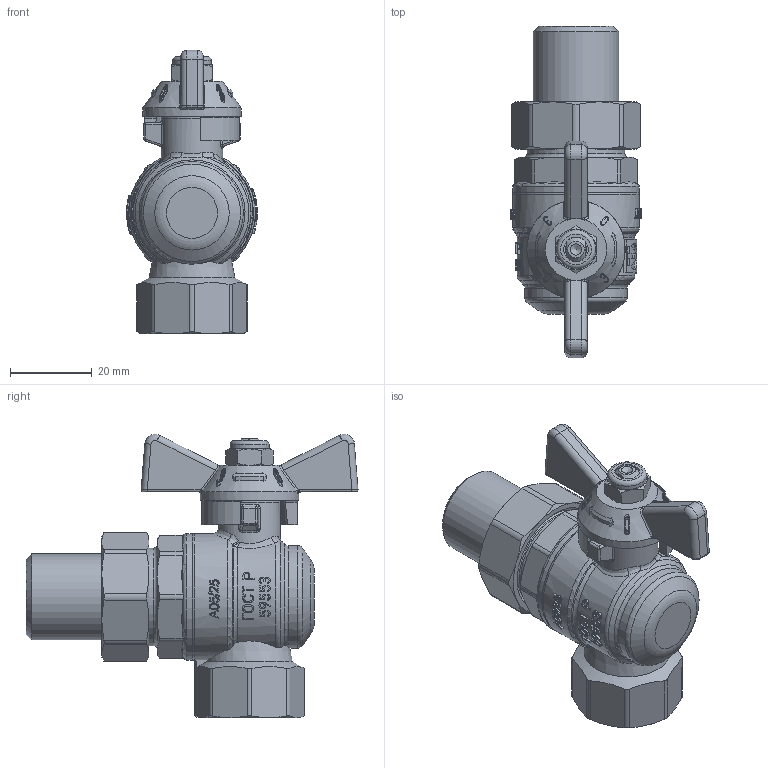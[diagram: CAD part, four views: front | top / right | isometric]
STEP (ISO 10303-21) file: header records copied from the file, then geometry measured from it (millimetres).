
FILE_DESCRIPTION(('STEP AP203'), '1');
FILE_NAME('VT.228S.NW.04', '', ('UNSPECIFIED'), ('UNSPECIFIED'), 'C3D Converter', 'C3D Toolkit', '');
FILE_SCHEMA(('CONFIG_CONTROL_DESIGN'));
Length unit declared in the file: millimetre
Products named in the file (1): ВР.491816.018.000-01 СБ
Bounding box: 31.9 x 81 x 69.18 mm (x, y, z)
Volume: 36347.9 mm3; surface area: 19521.5 mm2
Topology: 2 solids, 6 shells, 1953 faces, 5434 edges, 3553 vertices
Faces by surface type: plane 1431, extrusion 179, cylinder 156, cone 94, bspline 58, torus 31, sphere 4
Full cylindrical faces by diameter (mm): 6 x1, 8 x1, 9.5 x1, 10.5 x1, 12 x1, 13 x1, 15 x3, 16.6 x2, 18.2 x1, 18.632 x1, 20.955 x1, 22.2 x1, 23.8 x2, 24 x1, 24.118 x1, 25 x1, 30.9 x2
Entity records: 72884 total; most frequent: CARTESIAN_POINT 30698, ORIENTED_EDGE 10716, DIRECTION 6592, EDGE_CURVE 5358, VERTEX_POINT 3548, AXIS2_PLACEMENT_3D 2199, VECTOR 2194, EDGE_LOOP 2084
